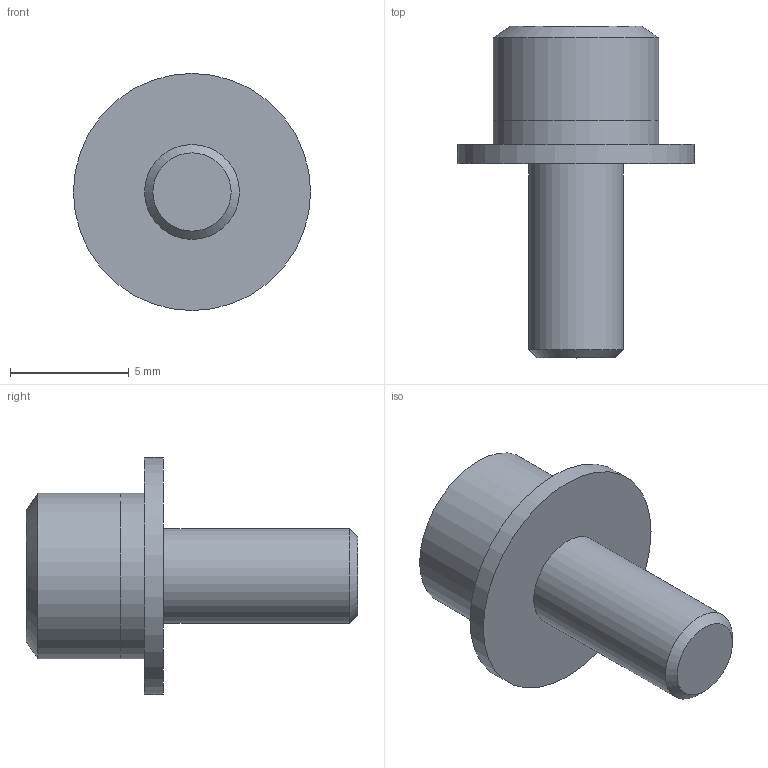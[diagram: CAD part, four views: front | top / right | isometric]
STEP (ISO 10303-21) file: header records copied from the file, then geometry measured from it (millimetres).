
FILE_DESCRIPTION((''),'2;1');
FILE_NAME('F:\CSW-04.stp','2013-12-02T15:24:55',('AMS8'),(''),'Autodesk Inventor 2008','Autodesk Inventor 2008','');
FILE_SCHEMA(('AUTOMOTIVE_DESIGN { 1 0 10303 214 1 1 1 1 }'));
Length unit declared in the file: millimetre
Products named in the file (1): CSW-04
Bounding box: 10 x 13.99 x 10 mm (x, y, z)
Surface area: 533.3 mm2 (no closed solid volume)
Topology: 0 solids, 3 shells, 15 faces, 28 edges, 14 vertices
Faces by surface type: plane 7, cylinder 6, cone 2
Full cylindrical faces by diameter (mm): 4 x3, 7 x2, 10 x1
Entity records: 382 total; most frequent: DIRECTION 70, CARTESIAN_POINT 54, ORIENTED_EDGE 38, AXIS2_PLACEMENT_3D 30, EDGE_CURVE 24, EDGE_LOOP 23, FACE_OUTER_BOUND 15, ADVANCED_FACE 15
